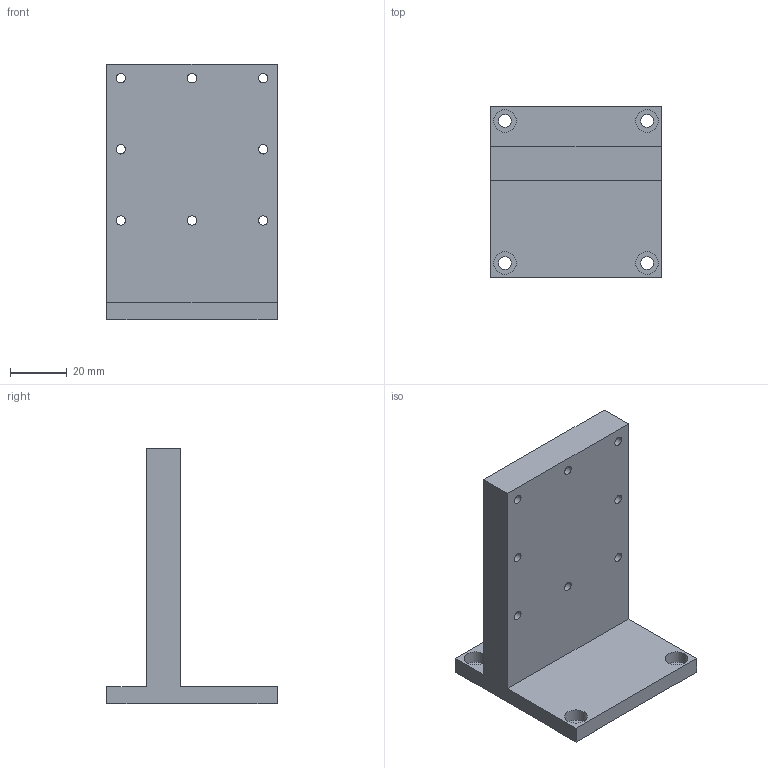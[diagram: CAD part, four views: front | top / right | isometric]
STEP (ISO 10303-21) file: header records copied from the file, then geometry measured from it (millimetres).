
FILE_DESCRIPTION( ( 'STEP AP203' ), '1' );
FILE_NAME( '//Srg14/OST事業部/技術G/Topsolid/ASSY/AS47-3/3D_AS47-3/3D_AS47-3+090219.step', '2009-02-19T06:51:35', ( ' ' ), ( ' ' ), 'XStep 1.0', ' ', ' ' );
FILE_SCHEMA( ( 'CONFIG_CONTROL_DESIGN' ) );
Length unit declared in the file: millimetre
Products named in the file (1): 1
Bounding box: 60 x 60 x 90 mm (x, y, z)
Volume: 79264.2 mm3; surface area: 22463.5 mm2
Topology: 1 solids, 4 shells, 54 faces, 144 edges, 99 vertices
Faces by surface type: plane 29, cylinder 22, cone 3
Full cylindrical faces by diameter (mm): 3.3 x14, 4.5 x4, 8 x4
Entity records: 1512 total; most frequent: DIRECTION 252, CARTESIAN_POINT 240, ORIENTED_EDGE 202, EDGE_LOOP 104, EDGE_CURVE 101, AXIS2_PLACEMENT_3D 96, VERTEX_POINT 84, FACE_OUTER_BOUND 76
